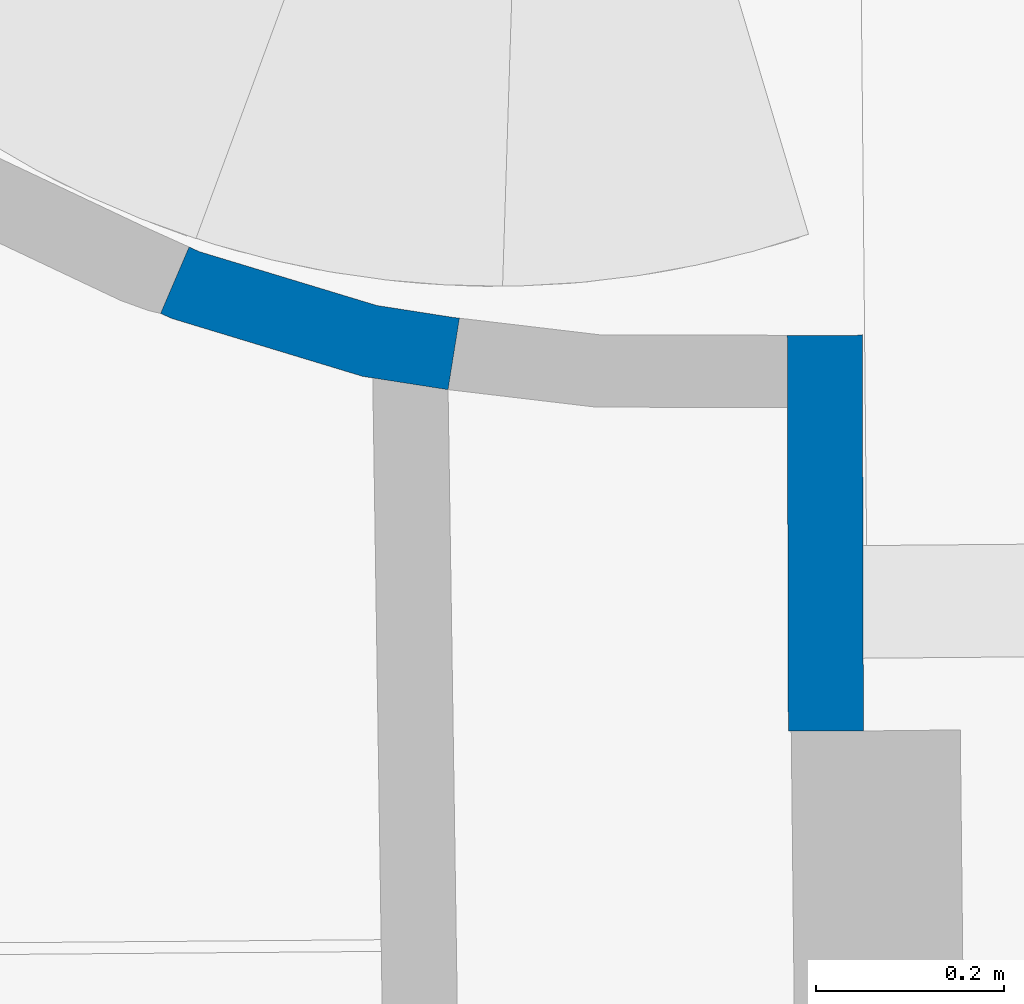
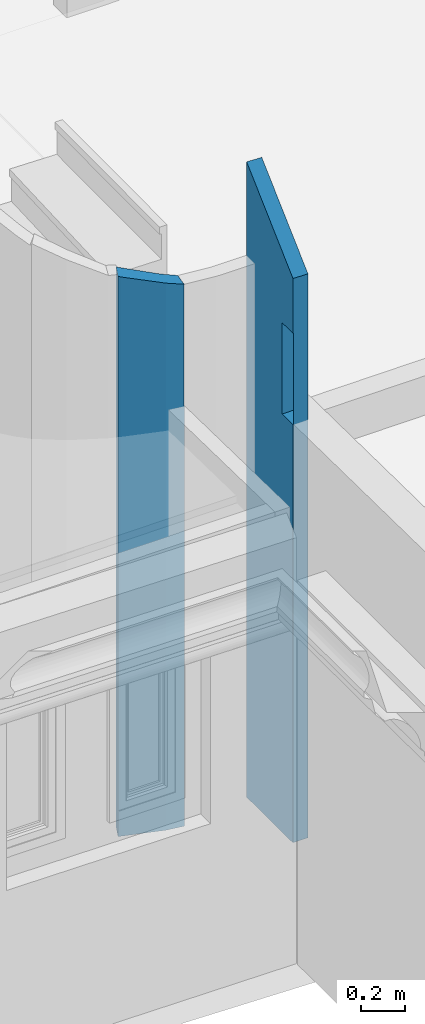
# One storey, part 46 of 72: 2 walls.
"""IFC2X3 building model written with IfcOpenShell, lengths in centimetres."""

from ifc_helpers import new_model, entity, si_unit, converted_unit, direction, frame, origin, origin_with_axes, place, context, subcontext, project, spatial, faceted_brep, material, layer, layer_set, layer_usage, type_object, element, save


model = new_model("IFC2X3")

# Units and contexts
model_context = context("Model", 3, precision=0.0001, world=origin(), true_north=direction((0.225632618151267, 0.974212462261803, 0.0)))
body_context = subcontext(model_context, "Body", "Model", "MODEL_VIEW")
ifc_project = project(units=[si_unit("LENGTHUNIT", "METRE", prefix="CENTI"), si_unit("AREAUNIT", "SQUARE_METRE", prefix="CENTI"), si_unit("VOLUMEUNIT", "CUBIC_METRE", prefix="CENTI"), converted_unit("PLANEANGLEUNIT", "DEGREE", entity("IfcRatioMeasure", 0.0174532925), si_unit("PLANEANGLEUNIT", "RADIAN"), dimensions=[0, 0, 0, 0, 0, 0, 0])], contexts=[model_context])

# Site, building, storey
site_placement = place(None, origin_with_axes())
site = spatial("IfcSite", under=ifc_project, at=site_placement, Name="Default Site", CompositionType="ELEMENT")
building_placement = place(site_placement, origin_with_axes())
building = spatial("IfcBuilding", under=site, at=building_placement, Name="Default Building", CompositionType="ELEMENT")
storey_placement = place(building_placement, frame((0.0, 0.0, 853.910374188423), z_axis=(0.0, 0.0, 1.0), x_axis=(1.0, 0.0, 0.0)))
storey = spatial("IfcBuildingStorey", under=building, at=storey_placement, Name="Niveau 2", CompositionType="ELEMENT", Elevation=853.910374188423)

# Walls
ifc_material = material(Name="<aucun>")
ifc_layer_1 = layer(ifc_material, 8.0)
ifc_layer_set_1 = layer_set([ifc_layer_1], Name="default")
ifc_layer_usage_1 = layer_usage(ifc_layer_set_1, "AXIS2", "POSITIVE", -4.0)
wall_type_1 = type_object("IfcWallType", Name="default 80", PredefinedType="NOTDEFINED", material=ifc_layer_set_1)
wall_1_placement = place(storey_placement, frame((-663.928081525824, -259.368257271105, 1.4210854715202e-12), z_axis=(0.0, 0.0, 1.0), x_axis=(-0.00266889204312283, 0.999996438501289, 0.0)))
element("IfcWall", 1, at=wall_1_placement, inside=storey, type_object=wall_type_1, material=ifc_layer_usage_1, Name="Enveloppe 170242", context=body_context, shape_type="Brep", body=[
    faceted_brep([(9.69625487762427, 4.00002251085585, -2.33888638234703e-05), (-1.04455995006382e-06, 4.00002251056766, -2.33888638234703e-05), (-1.04455995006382e-06, 4.00002251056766, 234.007525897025), (9.69625487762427, 4.00002251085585, 234.007525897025), (34.4793106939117, 4.00001652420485, 303.104758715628), (42.1583712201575, 4.00001652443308, 303.104758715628), (42.1583712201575, 4.00001652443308, -2.33888638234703e-05), (34.4793106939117, 4.00001652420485, -2.33888638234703e-05), (34.4507003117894, 4.000016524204, -2.33888638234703e-05), (34.4507003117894, 4.000016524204, 348.144031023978), (34.4793106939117, 4.00001652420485, 348.170924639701), (42.1583712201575, 4.00001652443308, 355.386710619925), (34.4507003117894, 3.99999751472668, -2.33888638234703e-05), (9.69625487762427, 3.99999751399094, -2.33888638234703e-05), (9.69625487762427, 3.99999751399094, 234.007525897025), (9.69625487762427, 3.99999751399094, 285.000014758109), (9.69625487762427, 3.99999751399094, 324.883246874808), (34.4507003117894, 3.99999751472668, 348.144031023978), (9.92241400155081e-07, 3.6881082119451, 229.999995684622), (-0.0999944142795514, 3.68728855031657, 229.999995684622), (-0.0999944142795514, 3.68728855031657, 234.007525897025), (-0.0999944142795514, 3.68728855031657, 315.66703364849), (9.92241400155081e-07, 3.6881082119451, 315.761065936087), (9.92241400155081e-07, 3.6881082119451, 285.000014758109), (9.92241400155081e-07, 3.6881082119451, 234.007525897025), (9.69625487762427, 4.00002251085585, 285.000014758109), (-1.04455995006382e-06, 4.00002251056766, 285.000014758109), (-1.04455995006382e-06, 4.00002251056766, 315.772033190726), (9.69625487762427, 4.00002251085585, 324.883246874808), (1.00680627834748e-05, -4.0000123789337, 229.999995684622), (9.74363997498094, -4.00001237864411, 229.999995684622), (9.74363997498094, -4.00001237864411, 234.007525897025), (1.00680627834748e-05, -4.0000123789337, 234.007525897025), (9.74363997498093, -3.99998176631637, 229.999995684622), (1.0068062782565e-05, -3.99998176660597, 229.999995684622), (1.0068062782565e-05, -3.99998176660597, -2.33888638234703e-05), (9.74363997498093, -3.99998176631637, -2.33888638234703e-05), (34.4506875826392, -4.00002331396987, -2.33888638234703e-05), (42.1999150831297, -4.00002331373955, -2.33888638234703e-05), (42.1999150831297, -4.00002331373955, 355.144286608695), (34.4506875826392, -4.00002331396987, 347.862697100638), (19.7438090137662, -3.99998176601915, 229.999995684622), (19.7438090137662, -3.99998176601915, 234.007525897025), (9.74363997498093, -3.99998176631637, 234.007525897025), (19.7438090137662, -4.00001594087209, 285.000014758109), (9.74363997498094, -4.00001594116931, 285.000014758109), (9.74363997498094, -4.00001594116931, 235.000014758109), (19.7438090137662, -4.00001594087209, 235.000014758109), (9.74363997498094, -4.00001594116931, 234.007525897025), (19.7438090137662, -4.00001594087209, 234.007525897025), (9.74363997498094, -4.0000233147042, 324.646354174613), (9.74363997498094, -4.0000233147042, 285.000014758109), (19.7438090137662, -4.00002331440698, 285.000014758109), (19.7438090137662, -4.00002331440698, 235.000014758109), (19.7438090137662, -4.00002331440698, 234.007525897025), (19.7438090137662, -4.00002331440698, 229.999995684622), (9.74363997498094, -4.0000233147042, 229.999995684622), (9.74363997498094, -4.0000233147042, -2.33888638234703e-05), (-0.0369926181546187, -4.00000899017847, 229.999995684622), (1.00680627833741e-05, -4.00000899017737, 229.999995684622), (1.00680627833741e-05, -4.00000899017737, 234.007525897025), (-0.0369926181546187, -4.00000899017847, 234.007525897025), (1.00680627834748e-05, -4.0000123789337, 315.490603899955), (-0.0369926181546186, -4.0000123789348, 315.455890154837), (-0.0369926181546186, -4.0000123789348, 234.007525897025), (1.00680627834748e-05, -4.0000123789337, 285.000014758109), (9.74363997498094, -4.00001237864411, 285.000014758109), (9.74363997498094, -4.00001237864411, 324.646354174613), (-1.04455994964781e-06, 4.00000851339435, -2.33888638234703e-05), (1.00680627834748e-05, -4.0000123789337, -2.33888638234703e-05), (9.92241400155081e-07, 3.6881082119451, -2.33888638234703e-05), (-1.04455994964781e-06, 4.00000851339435, 234.007525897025), (9.92469902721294e-07, -4.0000123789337, -2.33888638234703e-05), (9.92469902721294e-07, -4.0000123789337, 229.999995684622), (-1.04455067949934e-06, 3.6881082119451, -2.33888638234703e-05), (-1.04455067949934e-06, 3.6881082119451, 229.999995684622), (-1.04455067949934e-06, 3.6881082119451, 234.007525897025), (42.1999150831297, -4.00001043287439, -2.33888638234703e-05), (42.1583712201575, 3.99997825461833, -2.33888638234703e-05), (42.1316994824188, -3.35824169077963, -2.33888638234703e-05), (42.1565889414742, -3.70721110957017, -2.33888638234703e-05), (42.1565889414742, -3.70721110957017, 355.113864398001), (42.1317241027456, -3.35824076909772, 355.102775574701), (42.1583988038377, 3.99997928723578, 355.386681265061), (34.479309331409, 4.00001647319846, 348.170926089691), (34.4506945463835, 3.99999729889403, 348.144037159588), (34.4507292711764, -4.00002175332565, 347.862652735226), (42.199920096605, -4.00001024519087, 355.144281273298), (9.74363997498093, -3.99998176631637, 324.646354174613), (34.4507101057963, -4.00002247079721, 347.86267313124), (34.4506753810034, 3.99999658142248, 348.144057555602), (9.69625596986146, 4.00002255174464, 324.883245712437), (9.74364684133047, -3.99998172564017, 234.007525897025), (9.74364684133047, -3.99998172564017, 235.000014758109), (9.74364684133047, -3.99998172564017, 285.000014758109), (-0.0999943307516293, 3.6872783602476, 229.999995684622), (-0.0999943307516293, 3.6872783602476, 315.66703364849), (-0.0369566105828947, -4.00000764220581, 315.455851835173), (1.80524035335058e-05, -4.00001208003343, 315.490595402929), (2.15327500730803e-05, 3.6881089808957, 315.761044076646), (-0.0369816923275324, -4.00000890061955, 229.999995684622), (-0.0369816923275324, -4.00000890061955, 234.007525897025), (-0.0999943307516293, 3.6872783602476, 234.007525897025), (-0.0369926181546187, -4.00000899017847, 315.455890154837), (-0.100005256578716, 3.68727827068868, 315.66703364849), (-0.100005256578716, 3.68727827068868, 234.007525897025), (1.00678342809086e-05, 3.6881082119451, 234.007525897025), (1.00678342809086e-05, 3.6881082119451, 285.000014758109), (-1.04455994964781e-06, 4.00000851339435, 285.000014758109), (9.74363997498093, -3.99998176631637, 285.000014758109), (-2.48810513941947e-06, -4.00001284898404, 315.49061726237), (9.74363758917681, -3.99998185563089, 324.646356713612), (9.69625358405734, 4.00002246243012, 324.883248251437), (-2.32290214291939e-06, 4.00000846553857, 315.772034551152), (-1.04455067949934e-06, 3.6881082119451, 285.000014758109), (-1.04455067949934e-06, 3.6881082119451, 315.761065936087), (-1.04455994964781e-06, 4.00000851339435, 315.772033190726), (42.1317080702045, -3.35824107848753, -2.33888638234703e-05), (42.1317080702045, -3.35824107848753, 355.102801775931), (42.1583529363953, 3.99997832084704, -2.33888638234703e-05), (42.1583529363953, 3.99997832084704, 303.104758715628), (42.1583529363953, 3.99997832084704, 355.386710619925), (42.1316994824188, -3.35824169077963, 355.102801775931), (42.1565817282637, -3.70721217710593, -2.33888638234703e-05), (42.1565817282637, -3.70721217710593, 355.113864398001), (42.1999150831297, -4.00001043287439, 355.144286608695)], [[[0, 1, 2, 3]], [[4, 5, 6, 7]], [[7, 8, 9, 10, 4]], [[10, 11, 5, 4]], [[12, 13, 14, 15, 16, 17]], [[18, 19, 20, 21, 22, 23, 24]], [[25, 26, 27, 28]], [[29, 30, 31, 32]], [[33, 34, 35, 36]], [[37, 38, 39, 40]], [[33, 41, 42, 43]], [[44, 45, 46, 47]], [[47, 46, 48, 49]], [[37, 40, 50, 51, 52, 53, 54, 55, 56, 57]], [[58, 59, 60, 61]], [[62, 63, 64, 32, 65]], [[65, 66, 67, 62]], [[68, 0, 36, 69, 70]], [[24, 32, 43, 3, 71]], [[70, 72, 73, 18]], [[68, 74, 75, 76, 71]], [[77, 37, 12, 7, 78, 79, 80]], [[81, 82, 83, 84, 85, 86, 87]], [[0, 12, 37, 36]], [[88, 89, 90, 91]], [[25, 3, 92, 93, 94]], [[18, 29, 58, 95]], [[96, 97, 98, 99]], [[95, 100, 101, 102]], [[103, 104, 105, 61]], [[65, 32, 106, 107]], [[108, 25, 109, 65, 23]], [[22, 110, 111, 112, 113]], [[108, 114, 115, 116]], [[80, 117, 118, 81]], [[79, 119, 120, 121, 122]], [[77, 123, 124, 125]]]),
])
ifc_layer_2 = layer(ifc_material, 7.7)
ifc_layer_set_2 = layer_set([ifc_layer_2], Name="default")
ifc_layer_usage_2 = layer_usage(ifc_layer_set_2, "AXIS2", "POSITIVE", -3.85)
wall_type_2 = type_object("IfcWallType", Name="default 77", PredefinedType="NOTDEFINED", material=ifc_layer_set_2)
wall_2_placement = place(storey_placement, frame((-703.935389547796, -219.16135349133, 0.0), z_axis=(0.0, 0.0, 1.0), x_axis=(-0.993575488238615, 0.1131713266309, 0.0)))
element("IfcWall", 2, at=wall_2_placement, inside=storey, type_object=wall_type_2, material=ifc_layer_usage_2, Name="Enveloppe courbe 170058", context=body_context, shape_type="Brep", body=[
    faceted_brep([(31.1223590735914, -0.749188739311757, -2.33888624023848e-05), (29.8663384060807, -0.347941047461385, -2.33888624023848e-05), (29.8663384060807, -0.347941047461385, 312.829757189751), (31.1223590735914, -0.749188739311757, 313.253665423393), (1.84163956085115e-05, 3.85000965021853, -2.33888624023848e-05), (-0.212800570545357, 3.8438827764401, -2.33888624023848e-05), (-0.212800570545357, 3.8438827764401, 235.00001475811), (1.84163956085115e-05, 3.85000965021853, 235.00001475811), (0.192416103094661, 3.84202530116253, -2.33888624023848e-05), (1.83542483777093e-05, 3.85000815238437, -2.33888624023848e-05), (1.83542483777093e-05, 3.85000815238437, 235.00001475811), (0.192416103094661, 3.84202530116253, 235.00001475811), (29.8663428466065, -0.347927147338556, -2.33888624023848e-05), (8.97504802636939, 3.47761366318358, -2.33888624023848e-05), (8.97504802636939, 3.47761366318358, 305.992675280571), (29.8663428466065, -0.347927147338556, 312.829757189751), (7.89501978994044, 3.52243351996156, 235.00001475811), (7.89501978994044, 3.52243351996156, -2.33888624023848e-05), (7.89501965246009, 3.52243020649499, 235.00001475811), (0.192415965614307, 3.84202198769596, 235.00001475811), (0.192415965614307, 3.84202198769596, 303.10475871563), (0.192415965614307, 3.84202198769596, 303.166652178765), (8.97504922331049, 3.47761827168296, 305.992675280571), (8.97504922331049, 3.47761827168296, -2.33888624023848e-05), (7.89501965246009, 3.52243020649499, -2.33888624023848e-05), (0.192416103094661, 3.84202530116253, 303.10475871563), (1.83542483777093e-05, 3.85000815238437, 303.10475871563), (0.192416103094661, 3.84202530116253, 303.166652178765), (-0.557218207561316, -3.84745934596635, -2.33888624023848e-05), (-0.168280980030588, -3.84924180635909, -2.33888624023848e-05), (-0.168280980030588, -3.84924180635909, 235.00001475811), (-0.557218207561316, -3.84745934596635, 235.00001475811), (-0.168280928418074, -3.84923054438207, -2.33888624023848e-05), (1.89718996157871e-05, -3.85000184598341, -2.33888624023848e-05), (1.89718996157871e-05, -3.85000184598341, 303.10475871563), (-0.168280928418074, -3.84923054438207, 303.10475871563), (-0.168280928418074, -3.84923054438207, 235.00001475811), (-2.98645596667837e-06, -0.26108992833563, 303.10475871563), (-2.98645596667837e-06, -0.26108992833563, 235.00001475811), (1.89741398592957e-05, -3.85000135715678, -2.33888624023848e-05), (8.3371954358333, -4.19592244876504, -2.33888624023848e-05), (8.3371954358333, -4.19592244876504, 305.992675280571), (1.89741398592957e-05, -3.85000135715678, 303.10475871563), (8.33719569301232, -4.19591625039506, -2.33888624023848e-05), (27.7437023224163, -7.74956784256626, -2.33888624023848e-05), (27.7437023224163, -7.74956784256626, 312.829757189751), (8.33719569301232, -4.19591625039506, 305.992675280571), (27.7436987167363, -7.74958753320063, -2.33888624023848e-05), (28.910459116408, -8.12232018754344, -2.33888624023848e-05), (28.910459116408, -8.12232018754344, 313.253665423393), (27.7436987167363, -7.74958753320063, 312.829757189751), (29.3344153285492, -6.70905449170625, -2.33888624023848e-05), (27.7436982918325, -7.74958741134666, 312.829758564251), (29.334414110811, -6.70905414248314, 313.229255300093), (31.1223754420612, -0.749193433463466, 313.253612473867), (31.1223536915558, -0.749187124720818, -2.33888624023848e-05), (31.1223536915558, -0.749187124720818, 313.253665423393), (29.3344153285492, -6.70905449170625, 313.229251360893), (-2.10386546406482e-05, -0.261089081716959, -2.33888624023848e-05), (-0.212800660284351, 3.84388589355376, -2.33888624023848e-05), (-0.212800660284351, 3.84388589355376, 235.00001475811), (-2.10386546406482e-05, -0.261089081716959, 235.00001475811), (-0.557189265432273, -3.84746064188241, -2.33888624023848e-05), (-0.557189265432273, -3.84746064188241, 235.00001475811), (-2.10386546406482e-05, -0.261089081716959, 303.10475871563), (8.97504932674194, 3.47762076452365, -2.33888624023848e-05), (8.97504932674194, 3.47762076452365, 305.992675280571), (8.33719416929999, -4.19591612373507, 305.99268000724), (29.8663276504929, -0.347925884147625, 312.82980432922), (-1.30961410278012e-05, -0.261089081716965, 303.104734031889), (2.31622830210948e-05, -3.85000135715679, 303.10474569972), (8.97505687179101, 3.47762076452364, 305.99265183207), (7.89502818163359, 3.52243020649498, 305.64512985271), (0.192408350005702, 3.84202566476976, 303.10475871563), (0.192408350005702, 3.84202566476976, 235.00001475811), (8.97505103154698, 3.4776206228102, 305.992670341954), (1.69203556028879e-05, -3.85000118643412, 303.104764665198), (29.8663433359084, -0.34792728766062, 312.829755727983), (8.3372101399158, -4.19592039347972, 305.992632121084), (28.9104624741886, -8.12230967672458, -2.33888624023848e-05), (28.9104624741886, -8.12230967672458, 313.253665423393), (29.3343983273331, -6.70904849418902, 313.229303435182), (27.7436824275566, -7.74958178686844, 312.82980708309), (29.3344323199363, -6.70905958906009, -2.33888624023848e-05), (29.3344323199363, -6.70905958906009, 313.229251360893), (1.16726327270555e-05, 3.84290605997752, 303.10475871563), (0.192408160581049, 3.84202530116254, 303.166676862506), (8.6038830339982e-06, 3.84290605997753, 303.104768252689)], [[[0, 1, 2, 3]], [[4, 5, 6, 7]], [[8, 9, 10, 11]], [[12, 13, 14, 15]], [[11, 16, 17, 8]], [[18, 19, 20, 21, 22, 23, 24]], [[25, 26, 27]], [[28, 29, 30, 31]], [[32, 33, 34, 35, 36]], [[35, 37, 38, 36]], [[39, 40, 41, 42]], [[43, 44, 45, 46]], [[47, 48, 49, 50]], [[0, 51, 47, 12]], [[15, 52, 53, 54]], [[51, 55, 56, 57]], [[4, 58, 32, 28, 59]], [[60, 31, 36, 61, 7]], [[59, 62, 63, 60]], [[32, 58, 39]], [[42, 64, 35]], [[4, 8, 58]], [[61, 11, 7]], [[12, 43, 65]], [[66, 67, 68]], [[24, 65, 39, 58, 8]], [[27, 69, 70, 71, 72]], [[64, 73, 74, 61]], [[39, 65, 43]], [[46, 75, 76]], [[43, 12, 47]], [[50, 77, 78]], [[47, 51, 79]], [[80, 81, 82]], [[79, 83, 84, 80]], [[85, 25, 64]], [[64, 86, 87]]]),
])

save(model, "model.ifc")
